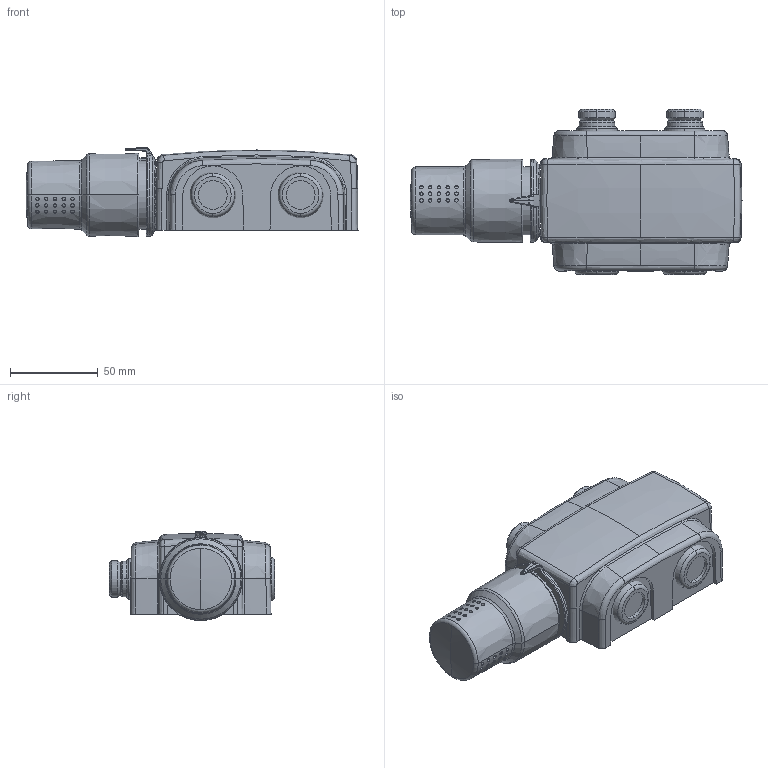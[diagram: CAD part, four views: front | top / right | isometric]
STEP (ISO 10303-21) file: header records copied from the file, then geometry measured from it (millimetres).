
FILE_DESCRIPTION (( 'STEP AP214' ), '1' );
FILE_NAME ('0707+0713+N094-esterno.STEP', '2023-11-09T15:27:52', ( '' ), ( '' ), 'SwSTEP 2.0', 'SolidWorks 2022', '' );
FILE_SCHEMA (( 'AUTOMOTIVE_DESIGN' ));
Length unit declared in the file: millimetre
Products named in the file (1): 0707+0713+N094-esterno
Bounding box: 189.09 x 94 x 50.81 mm (x, y, z)
Volume: 601686.9 mm3; surface area: 75588 mm2
Topology: 2 solids, 4 shells, 757 faces, 1873 edges, 1188 vertices
Faces by surface type: cone 232, cylinder 168, bspline 162, plane 123, torus 70, sphere 2
Entity records: 47411 total; most frequent: CARTESIAN_POINT 31573, ORIENTED_EDGE 3738, DIRECTION 2560, EDGE_CURVE 1869, VERTEX_POINT 1188, AXIS2_PLACEMENT_3D 1067, B_SPLINE_CURVE_WITH_KNOTS 918, EDGE_LOOP 829
